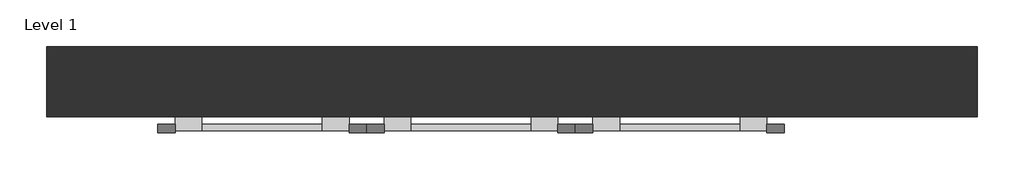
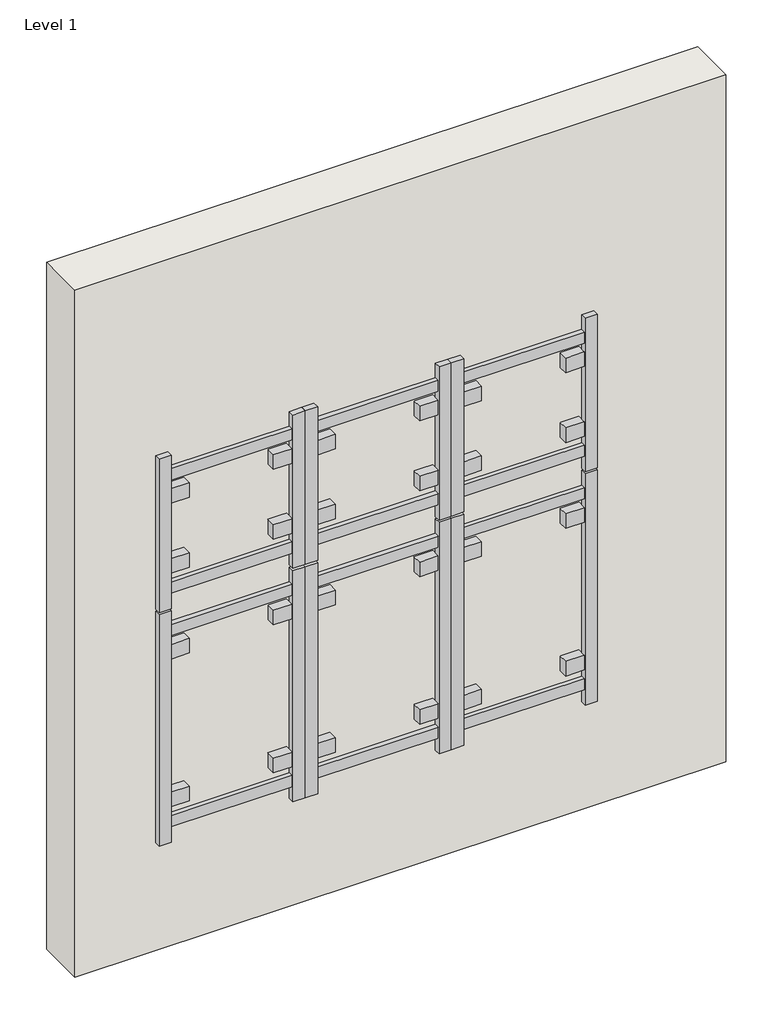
# One storey: 1 proxy, 1 wall.
"""IFC4 building model written with IfcOpenShell, lengths in millimetres."""

import ifcopenshell
import ifcopenshell.guid

model = None  # the IFC model being written
_history = None  # IfcOwnerHistory: only IFC2X3 demands one
_inside = {}  # id of a spatial element -> (the spatial element, [elements in it])
_under = {}  # id of a project, library or spatial element -> (it, [spatial elements below it])
_declared = {}  # id of a project -> (the project, [libraries it declares])
_typed = {}  # id of a type object -> (the type object, [elements of that type])
_made_of = {}  # id of a material, layer set ... -> (it, [elements and type objects made of it])


def new_model(schema):
    """Start an empty IFC model of exactly this schema.

    Asked for "IFC4X3", IfcOpenShell would pick the latest addendum, in which some entities
    have other attributes; the version numbers below select the first issue.
    IFC2X3 requires an IfcOwnerHistory on every rooted entity: one is made here for all.
    """
    global model, _history
    if schema == "IFC4X3":
        model = ifcopenshell.file(schema_version=(4, 3, 0, 0))
    else:
        model = ifcopenshell.file(schema=schema)
    _inside.clear()
    _under.clear()
    _declared.clear()
    _typed.clear()
    _made_of.clear()
    _history = None
    if model.schema == "IFC2X3":
        org = make("IfcOrganization", Name="unknown")
        user = make(
            "IfcPersonAndOrganization",
            ThePerson=make("IfcPerson", FamilyName="unknown"),
            TheOrganization=org,
        )
        app = make(
            "IfcApplication",
            ApplicationDeveloper=org,
            Version="unknown",
            ApplicationFullName="unknown",
            ApplicationIdentifier="unknown",
        )
        _history = make(
            "IfcOwnerHistory",
            OwningUser=user,
            OwningApplication=app,
            ChangeAction="ADDED",
            CreationDate=0,
        )
    return model


def make(cls, **values):
    """One entity of the class cls with the attributes given. An attribute that is None is left unset."""
    return model.create_entity(
        cls, **{name: value for name, value in values.items() if value is not None}
    )


def rooted(cls, **values):
    """An entity with a GlobalId (a new one), such as an element, a storey or a relation."""
    return make(cls, GlobalId=ifcopenshell.guid.new(), OwnerHistory=_history, **values)


def si_unit(unit_type, name, prefix=None):
    """IfcSIUnit, for example si_unit("LENGTHUNIT", "METRE", prefix="MILLI")."""
    return make("IfcSIUnit", UnitType=unit_type, Prefix=prefix, Name=name)


def assignment(units):
    """IfcUnitAssignment: the units of a project."""
    return None if units is None else make("IfcUnitAssignment", Units=units)


def point(xyz):
    """IfcCartesianPoint."""
    return None if xyz is None else make("IfcCartesianPoint", Coordinates=xyz)


def direction(xyz):
    """IfcDirection."""
    return None if xyz is None else make("IfcDirection", DirectionRatios=xyz)


def frame(location, z_axis=None, x_axis=None):
    """IfcAxis2Placement3D, a coordinate frame: its origin and axes. An axis left out is left unset."""
    return make(
        "IfcAxis2Placement3D",
        Location=point(location),
        Axis=direction(z_axis),
        RefDirection=direction(x_axis),
    )


def origin():
    """The frame at (0, 0, 0) with its axes left unset."""
    return frame((0.0, 0.0, 0.0))


def origin_with_axes():
    """The frame at (0, 0, 0) with the z axis (0, 0, 1) and the x axis (1, 0, 0) written out."""
    return frame((0.0, 0.0, 0.0), z_axis=(0.0, 0.0, 1.0), x_axis=(1.0, 0.0, 0.0))


def place(relative_to, where):
    """IfcLocalPlacement: puts the frame where relative to a parent placement (None: the world)."""
    return make(
        "IfcLocalPlacement", PlacementRelTo=relative_to, RelativePlacement=where
    )


def context(
    kind, dimensions, precision=None, world=None, true_north=None, identifier=None
):
    """IfcGeometricRepresentationContext, for example the 3D "Model" context."""
    return make(
        "IfcGeometricRepresentationContext",
        ContextIdentifier=identifier,
        ContextType=kind,
        CoordinateSpaceDimension=dimensions,
        Precision=precision,
        WorldCoordinateSystem=world,
        TrueNorth=true_north,
    )


def project(units=None, contexts=None):
    """IfcProject with its units and contexts."""
    return rooted(
        "IfcProject",
        Name="project",
        RepresentationContexts=contexts,
        UnitsInContext=assignment(units),
    )


def spatial(cls, under=None, at=None, **own):
    """A site, building, storey or space (cls), placed at a placement, below another one or the project."""
    s = rooted(cls, ObjectPlacement=at, **own)
    if under is not None:
        _under.setdefault(under.id(), (under, []))[1].append(s)
    return s


def polyline(points):
    """IfcPolyline through the points."""
    return make("IfcPolyline", Points=[point(p) for p in points])


def outline(outer, holes=None, kind="AREA"):
    """IfcArbitraryClosedProfileDef: a profile drawn as a closed curve; with holes, ...WithVoids."""
    if holes is None:
        return make("IfcArbitraryClosedProfileDef", ProfileType=kind, OuterCurve=outer)
    return make(
        "IfcArbitraryProfileDefWithVoids",
        ProfileType=kind,
        OuterCurve=outer,
        InnerCurves=holes,
    )


def extrude(swept, where, along, depth):
    """IfcExtrudedAreaSolid: the profile swept, set in the frame where, extruded along a direction by depth."""
    return make(
        "IfcExtrudedAreaSolid",
        SweptArea=swept,
        Position=where,
        ExtrudedDirection=direction(along),
        Depth=depth,
    )


def shape(context_of_items, identifier, shape_type, items):
    """IfcShapeRepresentation: the items that make up one representation, for example the "Body"."""
    return make(
        "IfcShapeRepresentation",
        ContextOfItems=context_of_items,
        RepresentationIdentifier=identifier,
        RepresentationType=shape_type,
        Items=items,
    )


def source(mapping_origin, context_of_items, identifier, shape_type, items):
    """IfcRepresentationMap: a shape defined once, which mapped items show again and again."""
    return make(
        "IfcRepresentationMap",
        MappingOrigin=mapping_origin,
        MappedRepresentation=shape(context_of_items, identifier, shape_type, items),
    )


def transform(
    local_origin,
    x_axis=None,
    y_axis=None,
    z_axis=None,
    scale=None,
    scale2=None,
    scale3=None,
    uniform=True,
):
    """IfcCartesianTransformationOperator3D, or its non-uniform kind. x_axis, y_axis, z_axis: its Axis1, 2, 3."""
    if uniform:
        return make(
            "IfcCartesianTransformationOperator3D",
            Axis1=direction(x_axis),
            Axis2=direction(y_axis),
            LocalOrigin=point(local_origin),
            Scale=scale,
            Axis3=direction(z_axis),
        )
    return make(
        "IfcCartesianTransformationOperator3DnonUniform",
        Axis1=direction(x_axis),
        Axis2=direction(y_axis),
        LocalOrigin=point(local_origin),
        Scale=scale,
        Axis3=direction(z_axis),
        Scale2=scale2,
        Scale3=scale3,
    )


def mapped(mapping_source, mapping_target):
    """IfcMappedItem: shows the shape of a source again, moved by a transform."""
    return make(
        "IfcMappedItem", MappingSource=mapping_source, MappingTarget=mapping_target
    )


def made_of(thing, what):
    """Note that an element or type object is made of a material, layer set ...; save() writes the relation."""
    if what is not None:
        _made_of.setdefault(what.id(), (what, []))[1].append(thing)
    return thing


def element(
    cls,
    number,
    at=None,
    inside=None,
    cuts=None,
    type_object=None,
    material=None,
    context=None,
    identifier="Body",
    shape_type=None,
    held_by="IfcProductDefinitionShape",
    body=None,
    shapes=None,
    **own,
):
    """One element of the class cls, such as IfcWall. Its Tag is "e" and its number.

    at: its placement. inside: the storey or other place that contains it. cuts: it is an
    opening in that element (IfcRelVoidsElement). A single representation is given by context,
    identifier, shape_type and body (its items); several are given by shapes. held_by: the class
    of the entity that holds the representations. save() writes the other relations.
    """
    e = rooted(cls, Tag="e%d" % number, ObjectPlacement=at, **own)
    if body is not None:
        shapes = [shape(context, identifier, shape_type, body)]
    if shapes is not None:
        e.Representation = make(held_by, Representations=shapes)
    if inside is not None:
        _inside.setdefault(inside.id(), (inside, []))[1].append(e)
    if cuts is not None:
        rooted(
            "IfcRelVoidsElement", RelatingBuildingElement=cuts, RelatedOpeningElement=e
        )
    if type_object is not None:
        _typed.setdefault(type_object.id(), (type_object, []))[1].append(e)
    return made_of(e, material)


def aggregate(whole, parts):
    """IfcRelAggregates: a whole, such as a stair, and the parts it consists of."""
    return rooted("IfcRelAggregates", RelatingObject=whole, RelatedObjects=parts)


def save(model, path):
    """Write the relations noted so far, then the file.

    IfcRelAggregates (storeys below a building ...), IfcRelContainedInSpatialStructure (elements
    in a storey), IfcRelDefinesByType, IfcRelAssociatesMaterial and IfcRelDeclares: one each for
    every whole, place, type object, material and project.
    """
    for whole, parts in _under.values():
        aggregate(whole, parts)
    for where, things in _inside.values():
        rooted(
            "IfcRelContainedInSpatialStructure",
            RelatedElements=things,
            RelatingStructure=where,
        )
    for kind, things in _typed.values():
        rooted("IfcRelDefinesByType", RelatedObjects=things, RelatingType=kind)
    for what, things in _made_of.values():
        rooted("IfcRelAssociatesMaterial", RelatedObjects=things, RelatingMaterial=what)
    for by, libraries in _declared.values():
        rooted("IfcRelDeclares", RelatingContext=by, RelatedDefinitions=libraries)
    model.write(path)


def specialty_equipment_51c90836(model_context):
    return source(origin(), model_context, "Body", "SweptSolid", [
        extrude(outline(polyline([(429.768, 14.478), (429.768, -49.022), (352.806, -49.022), (352.806, 14.478), (429.768, 14.478)])), origin_with_axes(), (0.0, 0.0, 1.0), 40.386),
        extrude(outline(polyline([(855.218, 14.478), (855.218, -49.022), (778.256, -49.022), (778.256, 14.478), (855.218, 14.478)])), origin_with_axes(), (0.0, 0.0, 1.0), 40.386),
        extrude(outline(polyline([(429.768, -631.444), (429.768, -694.944), (352.806, -694.944), (352.806, -631.444), (429.768, -631.444)])), origin_with_axes(), (0.0, 0.0, 1.0), 40.386),
        extrude(outline(polyline([(855.218, -631.444), (855.218, -694.944), (778.256, -694.944), (778.256, -631.444), (855.218, -631.444)])), origin_with_axes(), (0.0, 0.0, 1.0), 40.386),
        extrude(outline(polyline([(855.218, 101.6), (855.218, 53.34), (352.806, 53.34), (352.806, 101.6), (855.218, 101.6)])), frame((0.0, 0.0, 21.336), z_axis=(0.0, 0.0, 1.0), x_axis=(1.0, 0.0, 0.0)), (0.0, 0.0, 1.0), 19.05),
        extrude(outline(polyline([(855.218, -733.806), (855.218, -782.066), (352.806, -782.066), (352.806, -733.806), (855.218, -733.806)])), frame((0.0, 0.0, 21.336), z_axis=(0.0, 0.0, 1.0), x_axis=(1.0, 0.0, 0.0)), (0.0, 0.0, 1.0), 19.05),
        extrude(outline(polyline([(906.018, 165.354), (906.018, -845.82), (855.218, -845.82), (855.218, 165.354), (906.018, 165.354)])), frame((0.0, 0.0, 21.336), z_axis=(0.0, 0.0, 1.0), x_axis=(1.0, 0.0, 0.0)), (0.0, 0.0, 1.0), 25.4),
        extrude(outline(polyline([(352.806, 165.354), (352.806, -845.82), (302.006, -845.82), (302.006, 165.354), (352.806, 165.354)])), frame((0.0, 0.0, 21.336), z_axis=(0.0, 0.0, 1.0), x_axis=(1.0, 0.0, 0.0)), (0.0, 0.0, 1.0), 25.4),
        extrude(outline(polyline([(-174.244, 14.478), (-174.244, -49.022), (-251.206, -49.022), (-251.206, 14.478), (-174.244, 14.478)])), origin_with_axes(), (0.0, 0.0, 1.0), 40.386),
        extrude(outline(polyline([(251.206, 14.478), (251.206, -49.022), (174.244, -49.022), (174.244, 14.478), (251.206, 14.478)])), origin_with_axes(), (0.0, 0.0, 1.0), 40.386),
        extrude(outline(polyline([(-174.244, -631.444), (-174.244, -694.944), (-251.206, -694.944), (-251.206, -631.444), (-174.244, -631.444)])), origin_with_axes(), (0.0, 0.0, 1.0), 40.386),
        extrude(outline(polyline([(251.206, -631.444), (251.206, -694.944), (174.244, -694.944), (174.244, -631.444), (251.206, -631.444)])), origin_with_axes(), (0.0, 0.0, 1.0), 40.386),
        extrude(outline(polyline([(251.206, 101.6), (251.206, 53.34), (-251.206, 53.34), (-251.206, 101.6), (251.206, 101.6)])), frame((0.0, 0.0, 21.336), z_axis=(0.0, 0.0, 1.0), x_axis=(1.0, 0.0, 0.0)), (0.0, 0.0, 1.0), 19.05),
        extrude(outline(polyline([(251.206, -733.806), (251.206, -782.066), (-251.206, -782.066), (-251.206, -733.806), (251.206, -733.806)])), frame((0.0, 0.0, 21.336), z_axis=(0.0, 0.0, 1.0), x_axis=(1.0, 0.0, 0.0)), (0.0, 0.0, 1.0), 19.05),
        extrude(outline(polyline([(302.006, 165.354), (302.006, -845.82), (251.206, -845.82), (251.206, 165.354), (302.006, 165.354)])), frame((0.0, 0.0, 21.336), z_axis=(0.0, 0.0, 1.0), x_axis=(1.0, 0.0, 0.0)), (0.0, 0.0, 1.0), 25.4),
        extrude(outline(polyline([(-251.206, 165.354), (-251.206, -845.82), (-302.006, -845.82), (-302.006, 165.354), (-251.206, 165.354)])), frame((0.0, 0.0, 21.336), z_axis=(0.0, 0.0, 1.0), x_axis=(1.0, 0.0, 0.0)), (0.0, 0.0, 1.0), 25.4),
        extrude(outline(polyline([(-778.256, 14.478), (-778.256, -49.022), (-855.218, -49.022), (-855.218, 14.478), (-778.256, 14.478)])), origin_with_axes(), (0.0, 0.0, 1.0), 40.386),
        extrude(outline(polyline([(-352.806, 14.478), (-352.806, -49.022), (-429.768, -49.022), (-429.768, 14.478), (-352.806, 14.478)])), origin_with_axes(), (0.0, 0.0, 1.0), 40.386),
        extrude(outline(polyline([(-778.256, -631.444), (-778.256, -694.944), (-855.218, -694.944), (-855.218, -631.444), (-778.256, -631.444)])), origin_with_axes(), (0.0, 0.0, 1.0), 40.386),
        extrude(outline(polyline([(-352.806, -631.444), (-352.806, -694.944), (-429.768, -694.944), (-429.768, -631.444), (-352.806, -631.444)])), origin_with_axes(), (0.0, 0.0, 1.0), 40.386),
        extrude(outline(polyline([(-352.806, 101.6), (-352.806, 53.34), (-855.218, 53.34), (-855.218, 101.6), (-352.806, 101.6)])), frame((0.0, 0.0, 21.336), z_axis=(0.0, 0.0, 1.0), x_axis=(1.0, 0.0, 0.0)), (0.0, 0.0, 1.0), 19.05),
        extrude(outline(polyline([(-352.806, -733.806), (-352.806, -782.066), (-855.218, -782.066), (-855.218, -733.806), (-352.806, -733.806)])), frame((0.0, 0.0, 21.336), z_axis=(0.0, 0.0, 1.0), x_axis=(1.0, 0.0, 0.0)), (0.0, 0.0, 1.0), 19.05),
        extrude(outline(polyline([(-302.006, 165.354), (-302.006, -845.82), (-352.806, -845.82), (-352.806, 165.354), (-302.006, 165.354)])), frame((0.0, 0.0, 21.336), z_axis=(0.0, 0.0, 1.0), x_axis=(1.0, 0.0, 0.0)), (0.0, 0.0, 1.0), 25.4),
        extrude(outline(polyline([(-855.218, 165.354), (-855.218, -845.82), (-906.018, -845.82), (-906.018, 165.354), (-855.218, 165.354)])), frame((0.0, 0.0, 21.336), z_axis=(0.0, 0.0, 1.0), x_axis=(1.0, 0.0, 0.0)), (0.0, 0.0, 1.0), 25.4),
        extrude(outline(polyline([(429.768, 694.944), (429.768, 631.444), (352.806, 631.444), (352.806, 694.944), (429.768, 694.944)])), origin_with_axes(), (0.0, 0.0, 1.0), 40.386),
        extrude(outline(polyline([(855.218, 694.944), (855.218, 631.444), (778.256, 631.444), (778.256, 694.944), (855.218, 694.944)])), origin_with_axes(), (0.0, 0.0, 1.0), 40.386),
        extrude(outline(polyline([(429.768, 389.382), (429.768, 325.882), (352.806, 325.882), (352.806, 389.382), (429.768, 389.382)])), origin_with_axes(), (0.0, 0.0, 1.0), 40.386),
        extrude(outline(polyline([(855.218, 389.382), (855.218, 325.882), (778.256, 325.882), (778.256, 389.382), (855.218, 389.382)])), origin_with_axes(), (0.0, 0.0, 1.0), 40.386),
        extrude(outline(polyline([(855.218, 782.066), (855.218, 733.806), (352.806, 733.806), (352.806, 782.066), (855.218, 782.066)])), frame((0.0, 0.0, 21.336), z_axis=(0.0, 0.0, 1.0), x_axis=(1.0, 0.0, 0.0)), (0.0, 0.0, 1.0), 19.05),
        extrude(outline(polyline([(855.218, 287.02), (855.218, 238.76), (352.806, 238.76), (352.806, 287.02), (855.218, 287.02)])), frame((0.0, 0.0, 21.336), z_axis=(0.0, 0.0, 1.0), x_axis=(1.0, 0.0, 0.0)), (0.0, 0.0, 1.0), 19.05),
        extrude(outline(polyline([(906.018, 845.82), (906.018, 175.006), (855.218, 175.006), (855.218, 845.82), (906.018, 845.82)])), frame((0.0, 0.0, 21.336), z_axis=(0.0, 0.0, 1.0), x_axis=(1.0, 0.0, 0.0)), (0.0, 0.0, 1.0), 25.4),
        extrude(outline(polyline([(352.806, 845.82), (352.806, 175.006), (302.006, 175.006), (302.006, 845.82), (352.806, 845.82)])), frame((0.0, 0.0, 21.336), z_axis=(0.0, 0.0, 1.0), x_axis=(1.0, 0.0, 0.0)), (0.0, 0.0, 1.0), 25.4),
        extrude(outline(polyline([(-174.244, 694.944), (-174.244, 631.444), (-251.206, 631.444), (-251.206, 694.944), (-174.244, 694.944)])), origin_with_axes(), (0.0, 0.0, 1.0), 40.386),
        extrude(outline(polyline([(251.206, 694.944), (251.206, 631.444), (174.244, 631.444), (174.244, 694.944), (251.206, 694.944)])), origin_with_axes(), (0.0, 0.0, 1.0), 40.386),
        extrude(outline(polyline([(-174.244, 389.382), (-174.244, 325.882), (-251.206, 325.882), (-251.206, 389.382), (-174.244, 389.382)])), origin_with_axes(), (0.0, 0.0, 1.0), 40.386),
        extrude(outline(polyline([(251.206, 389.382), (251.206, 325.882), (174.244, 325.882), (174.244, 389.382), (251.206, 389.382)])), origin_with_axes(), (0.0, 0.0, 1.0), 40.386),
        extrude(outline(polyline([(251.206, 782.066), (251.206, 733.806), (-251.206, 733.806), (-251.206, 782.066), (251.206, 782.066)])), frame((0.0, 0.0, 21.336), z_axis=(0.0, 0.0, 1.0), x_axis=(1.0, 0.0, 0.0)), (0.0, 0.0, 1.0), 19.05),
        extrude(outline(polyline([(251.206, 287.02), (251.206, 238.76), (-251.206, 238.76), (-251.206, 287.02), (251.206, 287.02)])), frame((0.0, 0.0, 21.336), z_axis=(0.0, 0.0, 1.0), x_axis=(1.0, 0.0, 0.0)), (0.0, 0.0, 1.0), 19.05),
        extrude(outline(polyline([(302.006, 845.82), (302.006, 175.006), (251.206, 175.006), (251.206, 845.82), (302.006, 845.82)])), frame((0.0, 0.0, 21.336), z_axis=(0.0, 0.0, 1.0), x_axis=(1.0, 0.0, 0.0)), (0.0, 0.0, 1.0), 25.4),
        extrude(outline(polyline([(-251.206, 845.82), (-251.206, 175.006), (-302.006, 175.006), (-302.006, 845.82), (-251.206, 845.82)])), frame((0.0, 0.0, 21.336), z_axis=(0.0, 0.0, 1.0), x_axis=(1.0, 0.0, 0.0)), (0.0, 0.0, 1.0), 25.4),
        extrude(outline(polyline([(-778.256, 694.944), (-778.256, 631.444), (-855.218, 631.444), (-855.218, 694.944), (-778.256, 694.944)])), origin_with_axes(), (0.0, 0.0, 1.0), 40.386),
        extrude(outline(polyline([(-352.806, 694.944), (-352.806, 631.444), (-429.768, 631.444), (-429.768, 694.944), (-352.806, 694.944)])), origin_with_axes(), (0.0, 0.0, 1.0), 40.386),
        extrude(outline(polyline([(-778.256, 389.382), (-778.256, 325.882), (-855.218, 325.882), (-855.218, 389.382), (-778.256, 389.382)])), origin_with_axes(), (0.0, 0.0, 1.0), 40.386),
        extrude(outline(polyline([(-352.806, 389.382), (-352.806, 325.882), (-429.768, 325.882), (-429.768, 389.382), (-352.806, 389.382)])), origin_with_axes(), (0.0, 0.0, 1.0), 40.386),
        extrude(outline(polyline([(-352.806, 782.066), (-352.806, 733.806), (-855.218, 733.806), (-855.218, 782.066), (-352.806, 782.066)])), frame((0.0, 0.0, 21.336), z_axis=(0.0, 0.0, 1.0), x_axis=(1.0, 0.0, 0.0)), (0.0, 0.0, 1.0), 19.05),
        extrude(outline(polyline([(-352.806, 287.02), (-352.806, 238.76), (-855.218, 238.76), (-855.218, 287.02), (-352.806, 287.02)])), frame((0.0, 0.0, 21.336), z_axis=(0.0, 0.0, 1.0), x_axis=(1.0, 0.0, 0.0)), (0.0, 0.0, 1.0), 19.05),
        extrude(outline(polyline([(-302.006, 845.82), (-302.006, 175.006), (-352.806, 175.006), (-352.806, 845.82), (-302.006, 845.82)])), frame((0.0, 0.0, 21.336), z_axis=(0.0, 0.0, 1.0), x_axis=(1.0, 0.0, 0.0)), (0.0, 0.0, 1.0), 25.4),
        extrude(outline(polyline([(-855.218, 845.82), (-855.218, 175.006), (-906.018, 175.006), (-906.018, 845.82), (-855.218, 845.82)])), frame((0.0, 0.0, 21.336), z_axis=(0.0, 0.0, 1.0), x_axis=(1.0, 0.0, 0.0)), (0.0, 0.0, 1.0), 25.4),
    ])


model = new_model("IFC4")

# Units and contexts
model_context = context("Model", 3, world=origin())
ifc_project = project(units=[si_unit("LENGTHUNIT", "METRE", prefix="MILLI")], contexts=[model_context])

# Site, building, storey
site = spatial("IfcSite", under=ifc_project)
building = spatial("IfcBuilding", under=site)
storey = spatial("IfcBuildingStorey", under=building, Name="Level 1", Elevation=0.0)

# Proxy
placement = place(None, origin())
specialty_equipment_shape = specialty_equipment_51c90836(model_context)
element("IfcBuildingElementProxy", 1, Name="Video_Wall_Mount-Chief-TIL_Series-LG_Leyard : Video Wall for LG and Leyard", ObjectType="Video_Wall_Mount-Chief-TIL_Series-LG_Leyard : Video Wall for LG and Leyard", at=placement, inside=storey, context=model_context, shape_type="MappedRepresentation", body=[
    mapped(specialty_equipment_shape, transform((2016.5955971, 1667.4022415, 1335.136205), x_axis=(1.0, 0.0, 0.0), y_axis=(0.0, 0.0, 1.0), z_axis=(0.0, -1.0, 0.0))),
])

# Wall
element("IfcWall", 2, ObjectType="Generic - 8\"", at=placement, inside=storey, context=model_context, shape_type="SweptSolid", body=[
    extrude(outline(polyline([(3481.4135971, 1667.4022415), (789.0135971, 1667.4022415), (789.0135971, 1870.6022415), (3481.4135971, 1870.6022415), (3481.4135971, 1667.4022415)])), origin_with_axes(), (0.0, 0.0, 1.0), 3004.0883467),
])

save(model, "model.ifc")
